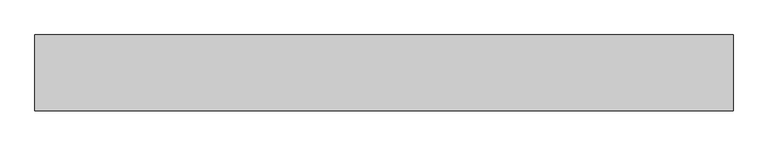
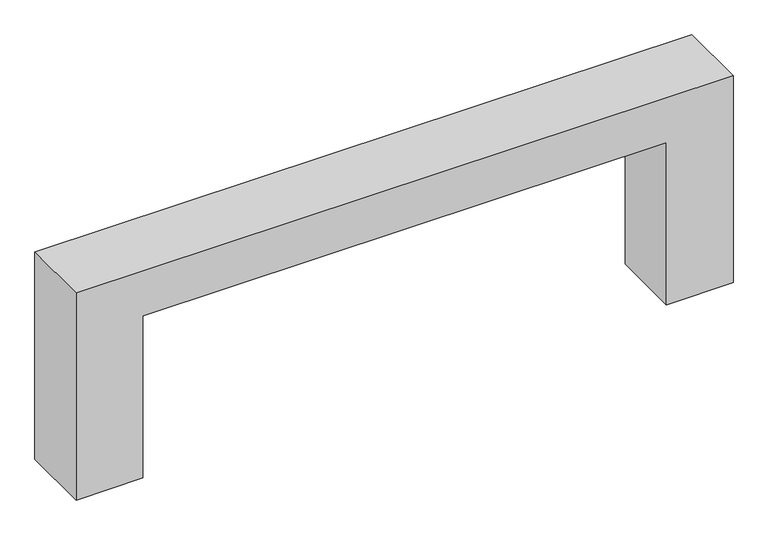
"""IFC4 building model written with IfcOpenShell, lengths in millimetres: proxy geometry, 門型 : 門型."""

from ifc_helpers import new_model, si_unit, frame, origin, place, context, project, spatial, polyline, outline, extrude, source, transform, mapped, element, save


def generic_models_1324edb1(model_context):
    return source(origin(), model_context, "Body", "SweptSolid", [
        extrude(outline(polyline([(4600.0, -15545.9784025), (4600.0, -29345.9784025), (0.0, -29345.9784025), (0.0, -27945.9784025), (3600.0, -27945.9784025), (3600.0, -16945.9784025), (0.0, -16945.9784025), (0.0, -15545.9784025), (4600.0, -15545.9784025)])), frame((0.0, -5050.3131013, 0.0), z_axis=(0.0, 1.0, 0.0), x_axis=(0.0, 0.0, 1.0)), (0.0, 0.0, 1.0), 1500.0),
    ])


if __name__ == "__main__":
    model = new_model("IFC4")
    model_context = context("Model", 3, world=origin())
    ifc_project = project(units=[si_unit("LENGTHUNIT", "METRE", prefix="MILLI")], contexts=[model_context])
    site = spatial("IfcSite", under=ifc_project)
    building = spatial("IfcBuilding", under=site)
    placement = place(None, origin())
    generic_models_shape = generic_models_1324edb1(model_context)
    element("IfcBuildingElementProxy", 1, Name="門型 : 門型", ObjectType="門型 : 門型", at=placement, inside=building, context=model_context, shape_type="MappedRepresentation", body=[
        mapped(generic_models_shape, transform((0.0, 0.0, 0.0), x_axis=(1.0, 0.0, 0.0), y_axis=(0.0, 1.0, 0.0), z_axis=(0.0, 0.0, 1.0))),
    ])
    save(model, "model.ifc")
